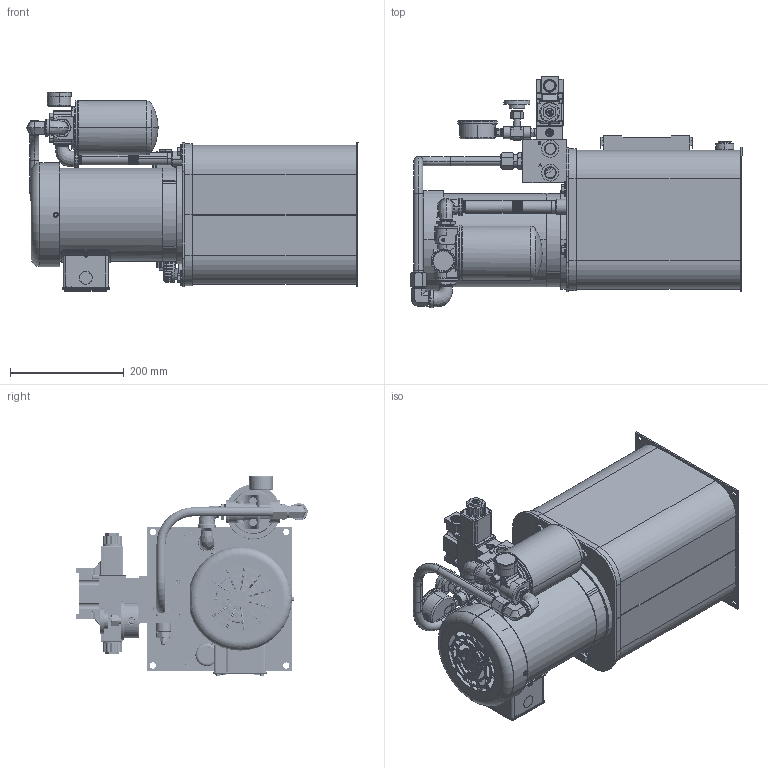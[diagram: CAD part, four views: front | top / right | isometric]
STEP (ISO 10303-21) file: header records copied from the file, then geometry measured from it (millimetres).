
FILE_DESCRIPTION (( 'STEP AP214' ), '1' );
FILE_NAME ('T3V-10-M-P1-F1-047.STEP', '2021-09-09T16:01:31', ( '' ), ( '' ), 'SwSTEP 2.0', 'SolidWorks 2020', '' );
FILE_SCHEMA (( 'AUTOMOTIVE_DESIGN' ));
Length unit declared in the file: inch
Products named in the file (1): T3V-10-M-P1-F1-047
Bounding box: 584.31 x 407.03 x 351.82 mm (x, y, z)
Surface area: 1141583.9 mm2 (no closed solid volume)
Topology: 0 solids, 170 shells, 2121 faces, 9063 edges, 6906 vertices
Faces by surface type: plane 766, cylinder 652, cone 370, bspline 183, torus 118, sphere 32
Entity records: 182824 total; most frequent: CARTESIAN_POINT 85933, DIRECTION 13338, ORIENTED_EDGE 13171, EDGE_CURVE 9036, VERTEX_POINT 6905, AXIS2_PLACEMENT_3D 4548, VECTOR 4242, LINE 4242
